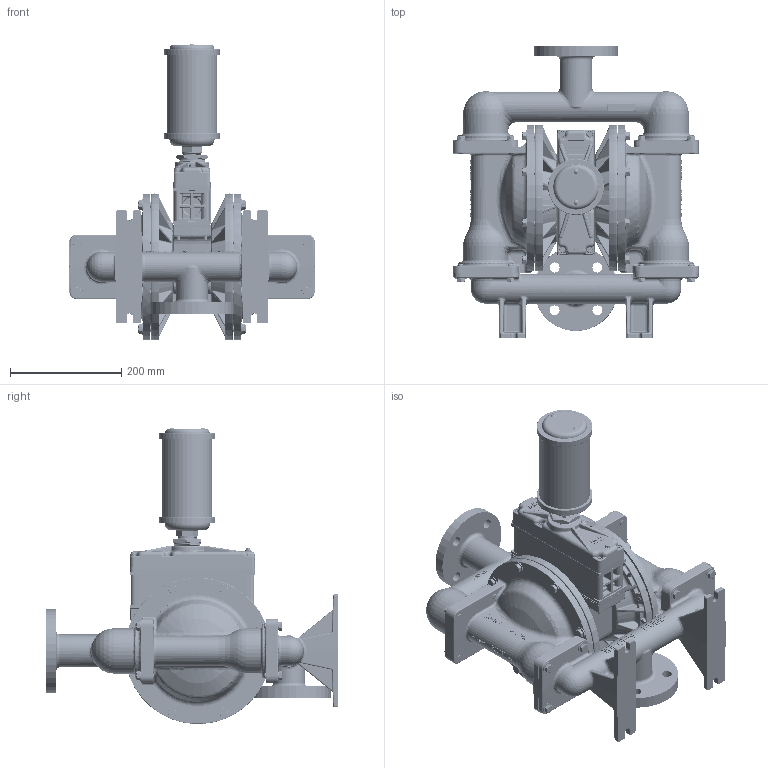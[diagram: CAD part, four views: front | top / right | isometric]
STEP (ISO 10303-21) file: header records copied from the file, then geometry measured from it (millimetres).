
FILE_DESCRIPTION((''),'2;1');
FILE_NAME('PS430_DI_TOP_SW0002','2017-01-18T',('Nathan.hale'),(''),'PRO/ENGINEER BY PARAMETRIC TECHNOLOGY CORPORATION, 2015360','PRO/ENGINEER BY PARAMETRIC TECHNOLOGY CORPORATION, 2015360','');
FILE_SCHEMA(('CONFIG_CONTROL_DESIGN'));
Length unit declared in the file: inch
Products named in the file (1): PS430_DI_TOP_SW0002
Bounding box: 442.46 x 526.31 x 533.53 mm (x, y, z)
Volume: 8286956 mm3; surface area: 1877755.1 mm2
Topology: 1 solids, 4 shells, 20289 faces, 52989 edges, 33286 vertices
Faces by surface type: plane 11921, bspline 2955, cylinder 2038, torus 1419, cone 1246, sphere 563, extrusion 147
Entity records: 1113756 total; most frequent: CARTESIAN_POINT 641126, ORIENTED_EDGE 105514, DIRECTION 87666, EDGE_CURVE 52757, VERTEX_POINT 33286, VECTOR 32544, LINE 32397, AXIS2_PLACEMENT_3D 27561
